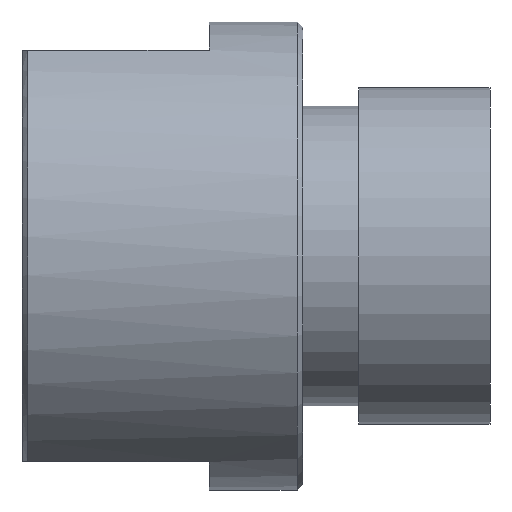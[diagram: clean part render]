
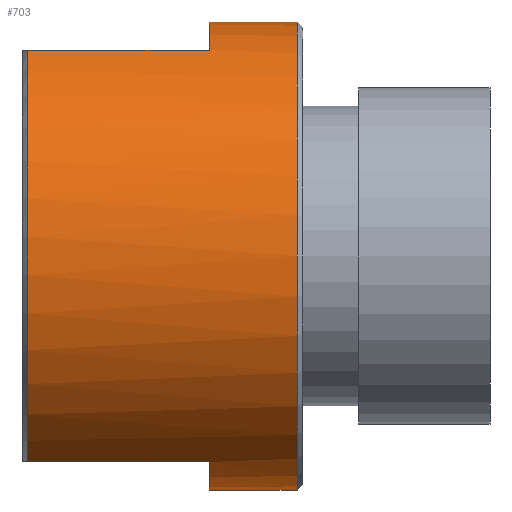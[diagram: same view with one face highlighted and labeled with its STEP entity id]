
A CAD part, left-side view. The second image highlights one B-rep face of the part: STEP entity #703.
In plain terms, the highlighted cylindrical face has radius 12.5 mm (diameter 25 mm), a partial arc.
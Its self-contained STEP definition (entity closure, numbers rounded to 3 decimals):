
#4 = CARTESIAN_POINT ( 'NONE',  ( 0., 5., 12.5 ) ) ;
#10 = ORIENTED_EDGE ( 'NONE', *, *, #249, .F. ) ;
#17 = CARTESIAN_POINT ( 'NONE',  ( 0., 0.3, -12.5 ) ) ;
#23 = ORIENTED_EDGE ( 'NONE', *, *, #455, .T. ) ;
#29 = CARTESIAN_POINT ( 'NONE',  ( -5.937, 14.7, 11. ) ) ;
#40 = DIRECTION ( 'NONE',  ( 0., 0., 1. ) ) ;
#52 = EDGE_CURVE ( 'NONE', #549, #706, #238, .T. ) ;
#54 = CIRCLE ( 'NONE', #772, 12.5 ) ;
#60 = VECTOR ( 'NONE', #301, 1000. ) ;
#66 = DIRECTION ( 'NONE',  ( 0., 0., -1. ) ) ;
#73 = VERTEX_POINT ( 'NONE', #596 ) ;
#98 = CARTESIAN_POINT ( 'NONE',  ( -5.937, 5., -11. ) ) ;
#131 = DIRECTION ( 'NONE',  ( -1., 0., 0. ) ) ;
#172 = VERTEX_POINT ( 'NONE', #406 ) ;
#176 = CARTESIAN_POINT ( 'NONE',  ( 0., 5., 0. ) ) ;
#187 = DIRECTION ( 'NONE',  ( 0., 1., 0. ) ) ;
#207 = LINE ( 'NONE', #710, #708 ) ;
#236 = VERTEX_POINT ( 'NONE', #4 ) ;
#238 = LINE ( 'NONE', #699, #60 ) ;
#247 = CARTESIAN_POINT ( 'NONE',  ( 0., 0.3, 0. ) ) ;
#249 = EDGE_CURVE ( 'NONE', #514, #386, #452, .T. ) ;
#250 = ORIENTED_EDGE ( 'NONE', *, *, #694, .T. ) ;
#267 = VECTOR ( 'NONE', #669, 1000. ) ;
#301 = DIRECTION ( 'NONE',  ( 0., -1., 0. ) ) ;
#307 = DIRECTION ( 'NONE',  ( 0., -1., 0. ) ) ;
#308 = DIRECTION ( 'NONE',  ( 0., 0., 1. ) ) ;
#322 = AXIS2_PLACEMENT_3D ( 'NONE', #176, #187, #131 ) ;
#323 = DIRECTION ( 'NONE',  ( 0., -1., 0. ) ) ;
#344 = VERTEX_POINT ( 'NONE', #17 ) ;
#353 = FACE_OUTER_BOUND ( 'NONE', #713, .T. ) ;
#380 = DIRECTION ( 'NONE',  ( 0., -1., 0. ) ) ;
#386 = VERTEX_POINT ( 'NONE', #427 ) ;
#400 = DIRECTION ( 'NONE',  ( 0., -1., 0. ) ) ;
#406 = CARTESIAN_POINT ( 'NONE',  ( 0., 5., -12.5 ) ) ;
#408 = ORIENTED_EDGE ( 'NONE', *, *, #645, .F. ) ;
#427 = CARTESIAN_POINT ( 'NONE',  ( -5.937, 14.7, -11. ) ) ;
#452 = LINE ( 'NONE', #535, #267 ) ;
#455 = EDGE_CURVE ( 'NONE', #549, #386, #746, .T. ) ;
#457 = DIRECTION ( 'NONE',  ( 0., 1., 0. ) ) ;
#458 = ORIENTED_EDGE ( 'NONE', *, *, #52, .F. ) ;
#475 = VECTOR ( 'NONE', #323, 1000. ) ;
#509 = LINE ( 'NONE', #534, #475 ) ;
#514 = VERTEX_POINT ( 'NONE', #98 ) ;
#534 = CARTESIAN_POINT ( 'NONE',  ( 0., 15., -12.5 ) ) ;
#535 = CARTESIAN_POINT ( 'NONE',  ( -5.937, 15., -11. ) ) ;
#538 = ORIENTED_EDGE ( 'NONE', *, *, #657, .T. ) ;
#549 = VERTEX_POINT ( 'NONE', #29 ) ;
#571 = ORIENTED_EDGE ( 'NONE', *, *, #602, .F. ) ;
#596 = CARTESIAN_POINT ( 'NONE',  ( 0., 0.3, 12.5 ) ) ;
#602 = EDGE_CURVE ( 'NONE', #236, #73, #207, .T. ) ;
#634 = EDGE_CURVE ( 'NONE', #344, #73, #761, .T. ) ;
#640 = AXIS2_PLACEMENT_3D ( 'NONE', #736, #400, #66 ) ;
#645 = EDGE_CURVE ( 'NONE', #172, #514, #874, .T. ) ;
#655 = DIRECTION ( 'NONE',  ( 0., -1., 0. ) ) ;
#657 = EDGE_CURVE ( 'NONE', #172, #344, #509, .T. ) ;
#669 = DIRECTION ( 'NONE',  ( 0., 1., 0. ) ) ;
#679 = AXIS2_PLACEMENT_3D ( 'NONE', #828, #307, #308 ) ;
#694 = EDGE_CURVE ( 'NONE', #236, #706, #54, .T. ) ;
#699 = CARTESIAN_POINT ( 'NONE',  ( -5.937, 15., 11. ) ) ;
#703 = ADVANCED_FACE ( 'NONE', ( #353 ), #840, .T. ) ;
#706 = VERTEX_POINT ( 'NONE', #793 ) ;
#708 = VECTOR ( 'NONE', #380, 1000. ) ;
#710 = CARTESIAN_POINT ( 'NONE',  ( 0., 15., 12.5 ) ) ;
#713 = EDGE_LOOP ( 'NONE', ( #571, #250, #458, #23, #10, #408, #538, #797 ) ) ;
#727 = CARTESIAN_POINT ( 'NONE',  ( 0., 5., 0. ) ) ;
#730 = DIRECTION ( 'NONE',  ( 0., 0., -1. ) ) ;
#733 = AXIS2_PLACEMENT_3D ( 'NONE', #247, #457, #40 ) ;
#736 = CARTESIAN_POINT ( 'NONE',  ( 0., 15., 0. ) ) ;
#746 = CIRCLE ( 'NONE', #679, 12.5 ) ;
#761 = CIRCLE ( 'NONE', #733, 12.5 ) ;
#772 = AXIS2_PLACEMENT_3D ( 'NONE', #727, #655, #730 ) ;
#793 = CARTESIAN_POINT ( 'NONE',  ( -5.937, 5., 11. ) ) ;
#797 = ORIENTED_EDGE ( 'NONE', *, *, #634, .T. ) ;
#828 = CARTESIAN_POINT ( 'NONE',  ( 0., 14.7, 0. ) ) ;
#840 = CYLINDRICAL_SURFACE ( 'NONE', #640, 12.5 ) ;
#874 = CIRCLE ( 'NONE', #322, 12.5 ) ;
